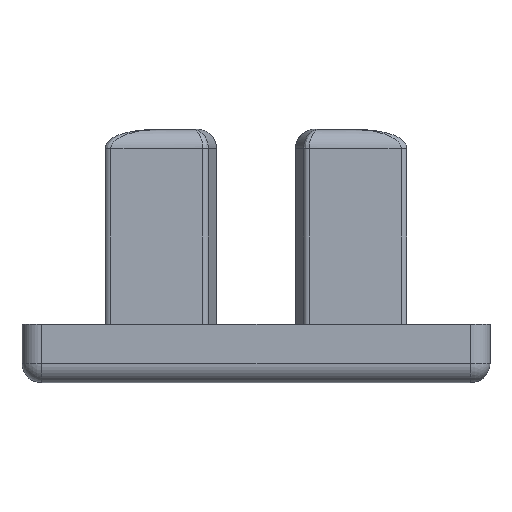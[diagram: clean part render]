
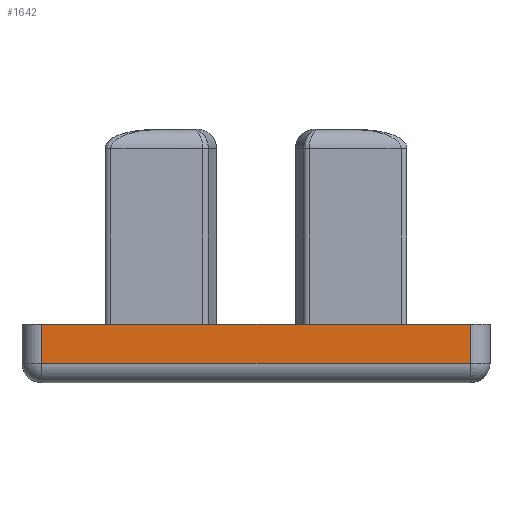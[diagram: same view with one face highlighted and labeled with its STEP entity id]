
A CAD part, left-side view. The second image highlights one B-rep face of the part: STEP entity #1642.
In plain terms, the highlighted planar face has unit normal (-1, 0, 0).
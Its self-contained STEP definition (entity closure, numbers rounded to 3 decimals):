
#61 = CARTESIAN_POINT ( 'NONE',  ( 0., 23., 1. ) ) ;
#100 = ORIENTED_EDGE ( 'NONE', *, *, #1737, .T. ) ;
#237 = LINE ( 'NONE', #1549, #2262 ) ;
#257 = CARTESIAN_POINT ( 'NONE',  ( 0., 24., 3. ) ) ;
#371 = CARTESIAN_POINT ( 'NONE',  ( 0., 1., 3. ) ) ;
#723 = LINE ( 'NONE', #1392, #3027 ) ;
#737 = VERTEX_POINT ( 'NONE', #61 ) ;
#750 = DIRECTION ( 'NONE',  ( 0., -1., 0. ) ) ;
#986 = VECTOR ( 'NONE', #2600, 1000. ) ;
#1001 = CARTESIAN_POINT ( 'NONE',  ( 0., 23., 3. ) ) ;
#1036 = VERTEX_POINT ( 'NONE', #1001 ) ;
#1354 = CARTESIAN_POINT ( 'NONE',  ( 0., 24., 3. ) ) ;
#1392 = CARTESIAN_POINT ( 'NONE',  ( 0., 24., 1. ) ) ;
#1534 = CARTESIAN_POINT ( 'NONE',  ( 0., 1., 1. ) ) ;
#1539 = AXIS2_PLACEMENT_3D ( 'NONE', #1354, #2523, #2014 ) ;
#1549 = CARTESIAN_POINT ( 'NONE',  ( 0., 1., 3. ) ) ;
#1557 = EDGE_LOOP ( 'NONE', ( #100, #1569, #2287, #1659 ) ) ;
#1569 = ORIENTED_EDGE ( 'NONE', *, *, #1706, .T. ) ;
#1580 = DIRECTION ( 'NONE',  ( 0., 0., 1. ) ) ;
#1621 = LINE ( 'NONE', #2832, #986 ) ;
#1642 = ADVANCED_FACE ( 'NONE', ( #2712 ), #2751, .F. ) ;
#1659 = ORIENTED_EDGE ( 'NONE', *, *, #1959, .T. ) ;
#1706 = EDGE_CURVE ( 'NONE', #2178, #3087, #237, .T. ) ;
#1737 = EDGE_CURVE ( 'NONE', #737, #2178, #723, .T. ) ;
#1898 = LINE ( 'NONE', #257, #2664 ) ;
#1959 = EDGE_CURVE ( 'NONE', #1036, #737, #1621, .T. ) ;
#2014 = DIRECTION ( 'NONE',  ( 0., 1., 0. ) ) ;
#2116 = DIRECTION ( 'NONE',  ( 0., -1., 0. ) ) ;
#2178 = VERTEX_POINT ( 'NONE', #1534 ) ;
#2262 = VECTOR ( 'NONE', #1580, 1000. ) ;
#2287 = ORIENTED_EDGE ( 'NONE', *, *, #2951, .F. ) ;
#2523 = DIRECTION ( 'NONE',  ( 1., 0., 0. ) ) ;
#2600 = DIRECTION ( 'NONE',  ( 0., 0., -1. ) ) ;
#2664 = VECTOR ( 'NONE', #750, 1000. ) ;
#2712 = FACE_OUTER_BOUND ( 'NONE', #1557, .T. ) ;
#2751 = PLANE ( 'NONE',  #1539 ) ;
#2832 = CARTESIAN_POINT ( 'NONE',  ( 0., 23., 3. ) ) ;
#2951 = EDGE_CURVE ( 'NONE', #1036, #3087, #1898, .T. ) ;
#3027 = VECTOR ( 'NONE', #2116, 1000. ) ;
#3087 = VERTEX_POINT ( 'NONE', #371 ) ;
